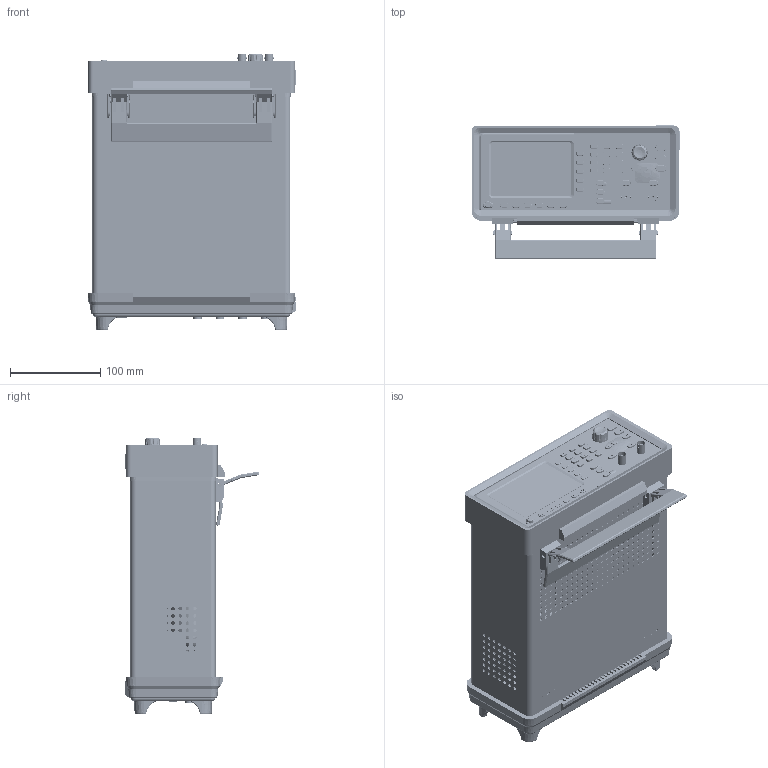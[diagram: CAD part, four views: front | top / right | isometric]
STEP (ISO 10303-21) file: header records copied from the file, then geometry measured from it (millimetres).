
FILE_DESCRIPTION((''),'2;1');
FILE_NAME('QMB_ASM_24_ASM','2014-03-07T',('Administrator'),(''),'PRO/ENGINEER BY PARAMETRIC TECHNOLOGY CORPORATION, 2010280','PRO/ENGINEER BY PARAMETRIC TECHNOLOGY CORPORATION, 2010280','');
FILE_SCHEMA(('CONFIG_CONTROL_DESIGN'));
Products named in the file (92): M_6_ASM; ANJIANBAN_1_ASM; _ANJIAN--2FAN_1; ANJIAN--2FAN_1_ASM; _TPR_2; TPR_2_ASM; TIEZIJIA_24; DYCZ_2; ZB2_10; ANJ-CHANG_2; TIEKE_14; XXLB_1; LKQ_1; XXLB2_ASM_1_ASM; MANIFOLD_SOLID_BREP_325017; MANIFOLD_SOLID_BREP_325427; MANIFOLD_SOLID_BREP_325515; MANIFOLD_SOLID_BREP_325603; MANIFOLD_SOLID_BREP_325691; MANIFOLD_SOLID_BREP_325779; BYQ_3_ASM; MANIFOLD_SOLID_BREP_328167; MANIFOLD_SOLID_BREP_328515; KGH_2_ASM; MANIFOLD_SOLID_BREP_349603; MANIFOLD_SOLID_BREP_369635; _BNCZ_5; BNCZ_5_ASM; DYKG_3; JD_ASM_2_ASM; HJD_ASM_2_ASM; SG-KEY_70; MANIFOLD_SOLID_BREP_558188; MANIFOLD_SOLID_BREP_558672; MANIFOLD_SOLID_BREP_559003; MANIFOLD_SOLID_BREP_559761; MANIFOLD_SOLID_BREP_559911; MANIFOLD_SOLID_BREP_560725; MANIFOLD_SOLID_BREP_562063; MANIFOLD_SOLID_BREP_563311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
Assembly tree (100 placements, depth 4):
  QMB_ASM_24_ASM
    M_6_ASM
    ANJIANBAN_1_ASM
    ANJIAN--2FAN_1_ASM
      _ANJIAN--2FAN_1
    TPR_2_ASM  x2
      _TPR_2
    TIEZIJIA_24
    DYCZ_2
    ZB2_10
    ANJ-CHANG_2
    TIEKE_14
    XXLB2_ASM_1_ASM
      XXLB_1
      LKQ_1  x4
    BYQ_3_ASM
      MANIFOLD_SOLID_BREP_325017
      MANIFOLD_SOLID_BREP_325427
      MANIFOLD_SOLID_BREP_325515
      MANIFOLD_SOLID_BREP_325603
      MANIFOLD_SOLID_BREP_325691
      MANIFOLD_SOLID_BREP_325779
    KGH_2_ASM
      MANIFOLD_SOLID_BREP_328167
      MANIFOLD_SOLID_BREP_328515
    BNCZ_5_ASM
      MANIFOLD_SOLID_BREP_349603
      MANIFOLD_SOLID_BREP_369635
      _BNCZ_5
    DYKG_3
    JD_ASM_2_ASM  x2
    HJD_ASM_2_ASM  x2
    SIGNAL-GENERATOR_ASM_26_ASM
      SG-KEY_70
      SG-TEXT_9_ASM
        MANIFOLD_SOLID_BREP_558188
        MANIFOLD_SOLID_BREP_558672
        MANIFOLD_SOLID_BREP_559003
        MANIFOLD_SOLID_BREP_559761
        MANIFOLD_SOLID_BREP_559911
        MANIFOLD_SOLID_BREP_560725
        MANIFOLD_SOLID_BREP_562063
        MANIFOLD_SOLID_BREP_563311
        MANIFOLD_SOLID_BREP_563725
        MANIFOLD_SOLID_BREP_563875
        MANIFOLD_SOLID_BREP_564025
        MANIFOLD_SOLID_BREP_565140
        MANIFOLD_SOLID_BREP_566193
        MANIFOLD_SOLID_BREP_567318
        MANIFOLD_SOLID_BREP_582455
        MANIFOLD_SOLID_BREP_584200
        MANIFOLD_SOLID_BREP_584456
        MANIFOLD_SOLID_BREP_585871
        MANIFOLD_SOLID_BREP_586500
        MANIFOLD_SOLID_BREP_587215
        MANIFOLD_SOLID_BREP_587372
        MANIFOLD_SOLID_BREP_587529
        MANIFOLD_SOLID_BREP_587686
        MANIFOLD_SOLID_BREP_587843
        MANIFOLD_SOLID_BREP_588000
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Bounding box: 231.35 x 149.46 x 306.36 mm (x, y, z)
Volume: 982634.1 mm3; surface area: 1256307.7 mm2
Topology: 85 solids, 163 shells, 13236 faces, 36456 edges, 24048 vertices
Faces by surface type: plane 8240, cylinder 3098, cone 934, bspline 504, extrusion 213, torus 191, sphere 54, revolution 2
Entity records: 362807 total; most frequent: CARTESIAN_POINT 94993, ORIENTED_EDGE 56020, DIRECTION 53370, EDGE_CURVE 28372, VECTOR 19396, LINE 19183, VERTEX_POINT 18715, AXIS2_PLACEMENT_3D 16986
